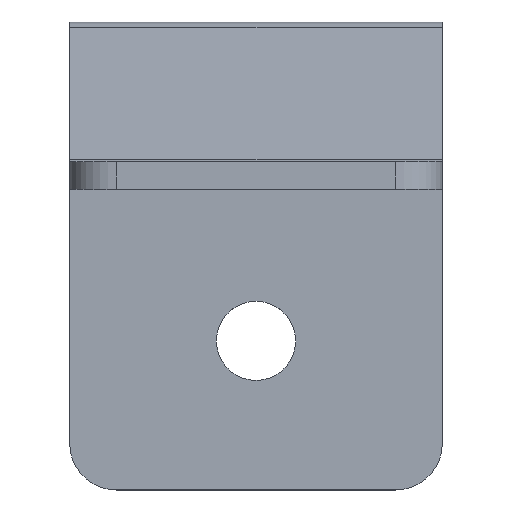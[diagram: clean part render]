
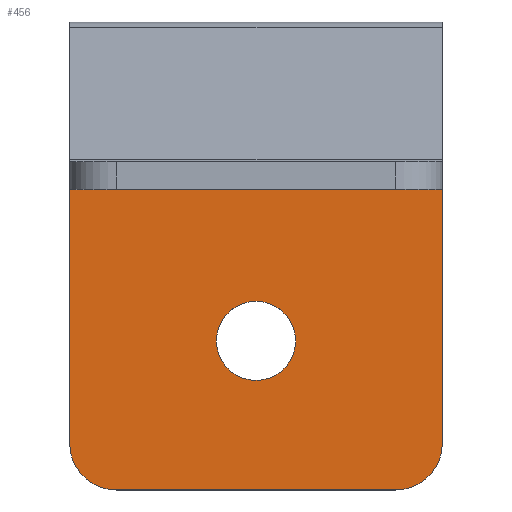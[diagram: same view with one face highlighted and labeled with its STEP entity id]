
A CAD part, top view. The second image highlights one B-rep face of the part: STEP entity #456.
In plain terms, the highlighted planar face has unit normal (0, 0, 1).
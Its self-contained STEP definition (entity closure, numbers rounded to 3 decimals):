
#16=FACE_BOUND('',#68,.T.);
#24=PLANE('',#518);
#42=FACE_OUTER_BOUND('',#67,.T.);
#67=EDGE_LOOP('',(#348,#349,#350,#351,#352,#353));
#68=EDGE_LOOP('',(#354));
#102=LINE('',#745,#144);
#106=LINE('',#761,#148);
#107=LINE('',#765,#149);
#108=LINE('',#768,#150);
#144=VECTOR('',#603,10.);
#148=VECTOR('',#619,10.);
#149=VECTOR('',#622,10.);
#150=VECTOR('',#625,10.);
#182=CIRCLE('',#519,5.);
#183=CIRCLE('',#520,5.);
#184=CIRCLE('',#521,4.25);
#213=VERTEX_POINT('',#742);
#214=VERTEX_POINT('',#744);
#220=VERTEX_POINT('',#760);
#221=VERTEX_POINT('',#762);
#222=VERTEX_POINT('',#764);
#223=VERTEX_POINT('',#766);
#224=VERTEX_POINT('',#769);
#265=EDGE_CURVE('',#214,#213,#102,.T.);
#273=EDGE_CURVE('',#220,#213,#106,.T.);
#274=EDGE_CURVE('',#221,#220,#182,.T.);
#275=EDGE_CURVE('',#222,#221,#107,.T.);
#276=EDGE_CURVE('',#223,#222,#183,.T.);
#277=EDGE_CURVE('',#214,#223,#108,.T.);
#278=EDGE_CURVE('',#224,#224,#184,.T.);
#348=ORIENTED_EDGE('',*,*,#265,.T.);
#349=ORIENTED_EDGE('',*,*,#273,.F.);
#350=ORIENTED_EDGE('',*,*,#274,.F.);
#351=ORIENTED_EDGE('',*,*,#275,.F.);
#352=ORIENTED_EDGE('',*,*,#276,.F.);
#353=ORIENTED_EDGE('',*,*,#277,.F.);
#354=ORIENTED_EDGE('',*,*,#278,.T.);
#456=ADVANCED_FACE('',(#42,#16),#24,.T.);
#518=AXIS2_PLACEMENT_3D('',#759,#617,#618);
#519=AXIS2_PLACEMENT_3D('',#763,#620,#621);
#520=AXIS2_PLACEMENT_3D('',#767,#623,#624);
#521=AXIS2_PLACEMENT_3D('',#770,#626,#627);
#603=DIRECTION('',(-1.,0.,0.));
#617=DIRECTION('center_axis',(0.,0.,1.));
#618=DIRECTION('ref_axis',(1.,0.,0.));
#619=DIRECTION('',(0.,1.,0.));
#620=DIRECTION('center_axis',(0.,0.,-1.));
#621=DIRECTION('ref_axis',(-0.707,-0.707,0.));
#622=DIRECTION('',(-1.,0.,0.));
#623=DIRECTION('center_axis',(0.,0.,-1.));
#624=DIRECTION('ref_axis',(0.707,-0.707,0.));
#625=DIRECTION('',(0.,-1.,0.));
#626=DIRECTION('center_axis',(0.,0.,-1.));
#627=DIRECTION('ref_axis',(1.,0.,0.));
#742=CARTESIAN_POINT('',(0.,44.107,3.));
#744=CARTESIAN_POINT('',(40.,44.107,3.));
#745=CARTESIAN_POINT('',(10.,44.107,3.));
#759=CARTESIAN_POINT('Origin',(20.,94.5,3.));
#760=CARTESIAN_POINT('',(0.,5.,3.));
#761=CARTESIAN_POINT('',(0.,189.,3.));
#762=CARTESIAN_POINT('',(5.,0.,3.));
#763=CARTESIAN_POINT('Origin',(5.,5.,3.));
#764=CARTESIAN_POINT('',(35.,0.,3.));
#765=CARTESIAN_POINT('',(0.,0.,3.));
#766=CARTESIAN_POINT('',(40.,5.,3.));
#767=CARTESIAN_POINT('Origin',(35.,5.,3.));
#768=CARTESIAN_POINT('',(40.,0.,3.));
#769=CARTESIAN_POINT('',(15.75,16.,3.));
#770=CARTESIAN_POINT('Origin',(20.,16.,3.));
